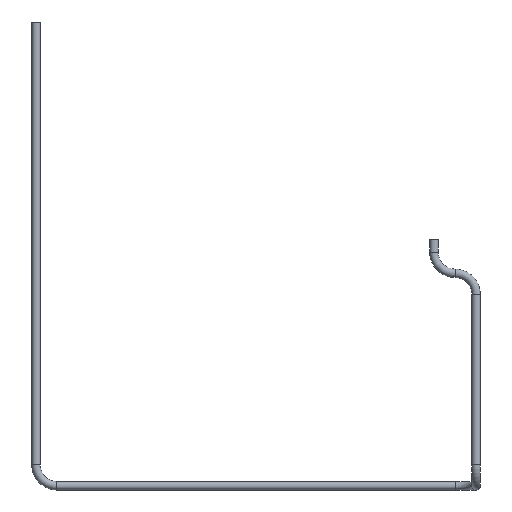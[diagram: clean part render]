
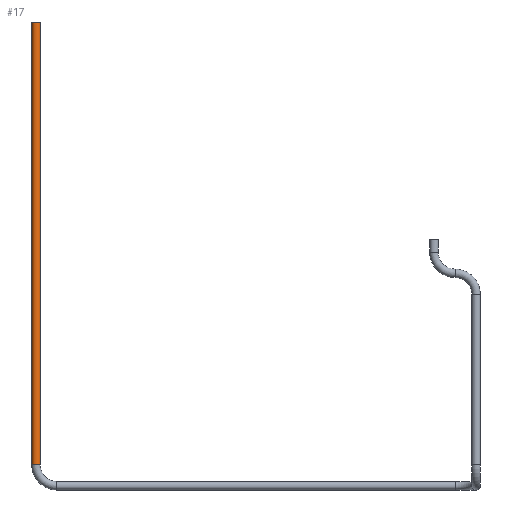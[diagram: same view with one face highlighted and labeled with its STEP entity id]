
A CAD part, front view. The second image highlights one B-rep face of the part: STEP entity #17.
In plain terms, the highlighted cylindrical face has radius 1 mm (diameter 2 mm), a full revolution.
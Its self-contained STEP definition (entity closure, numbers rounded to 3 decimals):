
#17 = ADVANCED_FACE('',(#18),#32,.T.);
#18 = FACE_BOUND('',#19,.T.);
#19 = EDGE_LOOP('',(#20,#49,#75,#76));
#20 = ORIENTED_EDGE('',*,*,#21,.T.);
#21 = EDGE_CURVE('',#22,#24,#26,.T.);
#22 = VERTEX_POINT('',#23);
#23 = CARTESIAN_POINT('',(412.6,550.,810.));
#24 = VERTEX_POINT('',#25);
#25 = CARTESIAN_POINT('',(412.6,550.,705.));
#26 = SEAM_CURVE('',#27,(#31,#42),.PCURVE_S1.);
#27 = LINE('',#28,#29);
#28 = CARTESIAN_POINT('',(412.6,550.,810.));
#29 = VECTOR('',#30,1.);
#30 = DIRECTION('',(0.,0.,-1.));
#31 = PCURVE('',#32,#37);
#32 = CYLINDRICAL_SURFACE('',#33,1.);
#33 = AXIS2_PLACEMENT_3D('',#34,#35,#36);
#34 = CARTESIAN_POINT('',(413.6,550.,810.));
#35 = DIRECTION('',(0.,0.,-1.));
#36 = DIRECTION('',(-1.,0.,0.));
#37 = DEFINITIONAL_REPRESENTATION('',(#38),#41);
#38 = B_SPLINE_CURVE_WITH_KNOTS('',1,(#39,#40),.UNSPECIFIED.,.F.,.F.,(2,
    2),(0.,105.),.PIECEWISE_BEZIER_KNOTS.);
#39 = CARTESIAN_POINT('',(6.283,0.));
#40 = CARTESIAN_POINT('',(6.283,105.));
#41 = ( GEOMETRIC_REPRESENTATION_CONTEXT(2) 
PARAMETRIC_REPRESENTATION_CONTEXT() REPRESENTATION_CONTEXT('2D SPACE',''
  ) );
#42 = PCURVE('',#32,#43);
#43 = DEFINITIONAL_REPRESENTATION('',(#44),#48);
#44 = LINE('',#45,#46);
#45 = CARTESIAN_POINT('',(0.,0.));
#46 = VECTOR('',#47,1.);
#47 = DIRECTION('',(0.,1.));
#48 = ( GEOMETRIC_REPRESENTATION_CONTEXT(2) 
PARAMETRIC_REPRESENTATION_CONTEXT() REPRESENTATION_CONTEXT('2D SPACE',''
  ) );
#49 = ORIENTED_EDGE('',*,*,#50,.F.);
#50 = EDGE_CURVE('',#24,#24,#51,.T.);
#51 = SURFACE_CURVE('',#52,(#57,#64),.PCURVE_S1.);
#52 = CIRCLE('',#53,1.);
#53 = AXIS2_PLACEMENT_3D('',#54,#55,#56);
#54 = CARTESIAN_POINT('',(413.6,550.,705.));
#55 = DIRECTION('',(0.,0.,-1.));
#56 = DIRECTION('',(-1.,0.,0.));
#57 = PCURVE('',#32,#58);
#58 = DEFINITIONAL_REPRESENTATION('',(#59),#63);
#59 = LINE('',#60,#61);
#60 = CARTESIAN_POINT('',(0.,105.));
#61 = VECTOR('',#62,1.);
#62 = DIRECTION('',(1.,0.));
#63 = ( GEOMETRIC_REPRESENTATION_CONTEXT(2) 
PARAMETRIC_REPRESENTATION_CONTEXT() REPRESENTATION_CONTEXT('2D SPACE',''
  ) );
#64 = PCURVE('',#65,#70);
#65 = TOROIDAL_SURFACE('',#66,5.,1.);
#66 = AXIS2_PLACEMENT_3D('',#67,#68,#69);
#67 = CARTESIAN_POINT('',(418.6,550.,705.));
#68 = DIRECTION('',(-0.,-1.,-0.));
#69 = DIRECTION('',(-1.,0.,0.));
#70 = DEFINITIONAL_REPRESENTATION('',(#71),#74);
#71 = B_SPLINE_CURVE_WITH_KNOTS('',1,(#72,#73),.UNSPECIFIED.,.F.,.F.,(2,
    2),(0.,6.283),.PIECEWISE_BEZIER_KNOTS.);
#72 = CARTESIAN_POINT('',(0.,6.283));
#73 = CARTESIAN_POINT('',(0.,0.));
#74 = ( GEOMETRIC_REPRESENTATION_CONTEXT(2) 
PARAMETRIC_REPRESENTATION_CONTEXT() REPRESENTATION_CONTEXT('2D SPACE',''
  ) );
#75 = ORIENTED_EDGE('',*,*,#21,.F.);
#76 = ORIENTED_EDGE('',*,*,#77,.T.);
#77 = EDGE_CURVE('',#22,#22,#78,.T.);
#78 = SURFACE_CURVE('',#79,(#84,#91),.PCURVE_S1.);
#79 = CIRCLE('',#80,1.);
#80 = AXIS2_PLACEMENT_3D('',#81,#82,#83);
#81 = CARTESIAN_POINT('',(413.6,550.,810.));
#82 = DIRECTION('',(0.,0.,-1.));
#83 = DIRECTION('',(-1.,0.,0.));
#84 = PCURVE('',#32,#85);
#85 = DEFINITIONAL_REPRESENTATION('',(#86),#90);
#86 = LINE('',#87,#88);
#87 = CARTESIAN_POINT('',(0.,0.));
#88 = VECTOR('',#89,1.);
#89 = DIRECTION('',(1.,0.));
#90 = ( GEOMETRIC_REPRESENTATION_CONTEXT(2) 
PARAMETRIC_REPRESENTATION_CONTEXT() REPRESENTATION_CONTEXT('2D SPACE',''
  ) );
#91 = PCURVE('',#92,#97);
#92 = PLANE('',#93);
#93 = AXIS2_PLACEMENT_3D('',#94,#95,#96);
#94 = CARTESIAN_POINT('',(413.6,550.,810.));
#95 = DIRECTION('',(-0.,-0.,-1.));
#96 = DIRECTION('',(-1.,0.,0.));
#97 = DEFINITIONAL_REPRESENTATION('',(#98),#102);
#98 = CIRCLE('',#99,1.);
#99 = AXIS2_PLACEMENT_2D('',#100,#101);
#100 = CARTESIAN_POINT('',(0.,0.));
#101 = DIRECTION('',(1.,0.));
#102 = ( GEOMETRIC_REPRESENTATION_CONTEXT(2) 
PARAMETRIC_REPRESENTATION_CONTEXT() REPRESENTATION_CONTEXT('2D SPACE',''
  ) );
